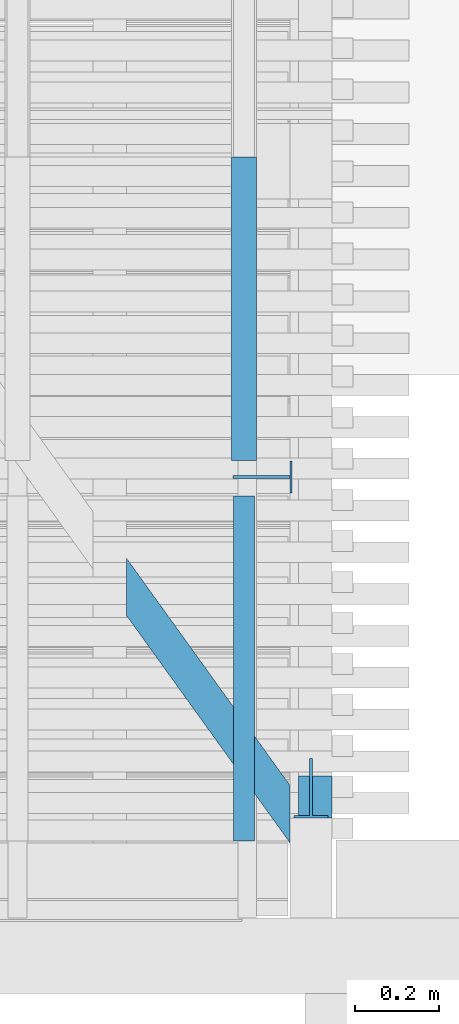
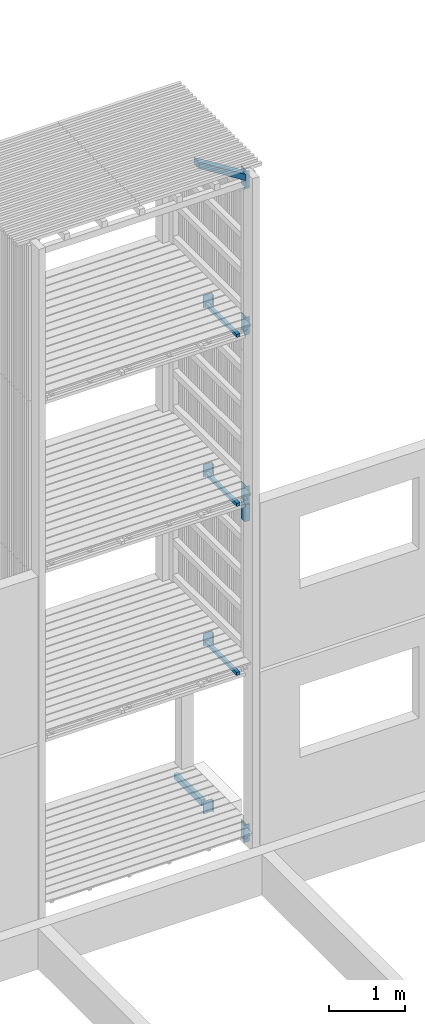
# One storey, part 166 of 182: 14 beams.
"""IFC2X3 building model written with IfcOpenShell, lengths in metres."""

from ifc_helpers import new_model, si_unit, frame, origin, place, context, project, spatial, faceted_brep, element, save


model = new_model("IFC2X3")

# Units and contexts
model_context = context("Model", 3, precision=1e-06, world=origin())
ifc_project = project(units=[si_unit("LENGTHUNIT", "METRE"), si_unit("PLANEANGLEUNIT", "RADIAN")], contexts=[model_context])

# Site, building, storey
site = spatial("IfcSite", under=ifc_project, CompositionType="ELEMENT")
building = spatial("IfcBuilding", under=site, CompositionType="ELEMENT")
storey = spatial("IfcBuildingStorey", under=building, Name="vs", CompositionType="ELEMENT", Elevation=-0.85)

# Beams
placement = place(None, origin())
beam_1_placement = place(placement, frame((16.488197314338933, 11.5250776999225, -0.243899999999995), z_axis=(-1.0, 0.0, 0.0), x_axis=(0.0, 0.0, 1.0)))
element("IfcBeam", 1, at=beam_1_placement, inside=storey, Name="Contre-usinage", context=model_context, shape_type="Brep", body=[
    faceted_brep([(0.2, 0.003999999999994, -0.065999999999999), (0.2, -0.004000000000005, -0.065999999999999), (0.175, -0.004000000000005, -0.065999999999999), (0.175, 0.003999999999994, -0.065999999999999), (0.0, 0.003999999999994, -0.065999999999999), (0.175, 0.003999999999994, -0.065999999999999), (0.175, 0.037999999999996, -0.065999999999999), (0.0, 0.037999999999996, -0.065999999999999), (0.0, -0.038000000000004, -0.065999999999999), (0.175, -0.038000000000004, -0.065999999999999), (0.175, -0.004000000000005, -0.065999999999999), (0.0, -0.004000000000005, -0.065999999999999), (0.0, -0.004000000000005, 0.071000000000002), (0.0, -0.004000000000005, -0.065999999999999), (0.175, -0.004000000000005, -0.065999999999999), (0.2, -0.004000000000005, -0.065999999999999), (0.2, -0.004000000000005, 0.071000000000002), (0.0, 0.003999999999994, 0.071000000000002), (0.0, -0.004000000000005, 0.071000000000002), (0.2, -0.004000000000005, 0.071000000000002), (0.2, 0.003999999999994, 0.071000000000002), (0.0, 0.037999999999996, -0.071000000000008), (0.175, 0.037999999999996, -0.071000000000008), (0.175, -0.038000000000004, -0.071000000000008), (0.0, -0.038000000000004, -0.071000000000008), (0.2, 0.003999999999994, 0.071000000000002), (0.2, -0.004000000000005, 0.071000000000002), (0.2, -0.004000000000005, -0.065999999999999), (0.2, 0.003999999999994, -0.065999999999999), (0.2, 0.003999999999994, -0.065999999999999), (0.175, 0.003999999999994, -0.065999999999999), (0.0, 0.003999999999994, -0.065999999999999), (0.0, 0.003999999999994, 0.071000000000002), (0.2, 0.003999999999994, 0.071000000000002), (0.175, -0.038000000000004, -0.071000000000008), (0.175, 0.037999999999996, -0.071000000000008), (0.175, 0.037999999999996, -0.065999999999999), (0.175, 0.003999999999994, -0.065999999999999), (0.175, -0.004000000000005, -0.065999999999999), (0.175, -0.038000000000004, -0.065999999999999), (0.0, 0.037999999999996, -0.071000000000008), (0.0, -0.038000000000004, -0.071000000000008), (0.0, -0.038000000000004, -0.065999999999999), (0.0, -0.004000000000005, -0.065999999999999), (0.0, -0.004000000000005, 0.071000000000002), (0.0, 0.003999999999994, 0.071000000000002), (0.0, 0.003999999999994, -0.065999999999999), (0.0, 0.037999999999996, -0.065999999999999), (0.0, 0.037999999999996, -0.071000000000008), (0.0, 0.037999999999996, -0.065999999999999), (0.175, 0.037999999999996, -0.065999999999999), (0.175, 0.037999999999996, -0.071000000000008), (0.0, -0.038000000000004, -0.065999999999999), (0.0, -0.038000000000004, -0.071000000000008), (0.175, -0.038000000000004, -0.071000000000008), (0.175, -0.038000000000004, -0.065999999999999)], [[[0, 1, 2, 3]], [[4, 5, 6, 7]], [[8, 9, 10, 11]], [[12, 13, 14, 15, 16]], [[17, 18, 19, 20]], [[21, 22, 23, 24]], [[25, 26, 27, 28]], [[29, 30, 31, 32, 33]], [[34, 35, 36, 37, 38, 39]], [[40, 41, 42, 43, 44, 45, 46, 47]], [[48, 49, 50, 51]], [[52, 53, 54, 55]]]),
])
beam_2_placement = place(placement, frame((16.488197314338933, 11.5250776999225, 7.839999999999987), z_axis=(-1.0, 0.0, 0.0), x_axis=(0.0, 0.0, 1.0)))
element("IfcBeam", 2, at=beam_2_placement, inside=storey, Name="Contre-usinage", context=model_context, shape_type="Brep", body=[
    faceted_brep([(0.200000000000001, 0.003999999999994, -0.065999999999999), (0.200000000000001, -0.004000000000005, -0.065999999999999), (0.175000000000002, -0.004000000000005, -0.065999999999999), (0.175000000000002, 0.003999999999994, -0.065999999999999), (2e-15, 0.003999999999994, -0.065999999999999), (0.175000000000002, 0.003999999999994, -0.065999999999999), (0.175000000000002, 0.037999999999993, -0.065999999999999), (2e-15, 0.037999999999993, -0.065999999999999), (2e-15, -0.038000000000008, -0.065999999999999), (0.175000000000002, -0.038000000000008, -0.065999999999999), (0.175000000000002, -0.004000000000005, -0.065999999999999), (2e-15, -0.004000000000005, -0.065999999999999), (2e-15, -0.004000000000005, 0.071000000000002), (2e-15, -0.004000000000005, -0.065999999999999), (0.175000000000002, -0.004000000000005, -0.065999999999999), (0.200000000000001, -0.004000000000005, -0.065999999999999), (0.200000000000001, -0.004000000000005, 0.071000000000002), (2e-15, 0.003999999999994, 0.071000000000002), (2e-15, -0.004000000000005, 0.071000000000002), (0.200000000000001, -0.004000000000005, 0.071000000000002), (0.200000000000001, 0.003999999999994, 0.071000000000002), (2e-15, 0.037999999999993, -0.071000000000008), (0.175000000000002, 0.037999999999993, -0.071000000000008), (0.175000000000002, -0.038000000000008, -0.071000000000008), (2e-15, -0.038000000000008, -0.071000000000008), (0.175000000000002, -0.038000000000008, -0.071000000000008), (0.175000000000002, 0.037999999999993, -0.071000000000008), (0.175000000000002, 0.037999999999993, -0.065999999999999), (0.175000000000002, 0.003999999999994, -0.065999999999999), (0.175000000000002, -0.004000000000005, -0.065999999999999), (0.175000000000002, -0.038000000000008, -0.065999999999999), (0.200000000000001, 0.003999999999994, -0.065999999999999), (0.175000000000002, 0.003999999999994, -0.065999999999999), (2e-15, 0.003999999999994, -0.065999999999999), (2e-15, 0.003999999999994, 0.071000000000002), (0.200000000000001, 0.003999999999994, 0.071000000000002), (0.200000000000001, 0.003999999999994, 0.071000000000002), (0.200000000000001, -0.004000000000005, 0.071000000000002), (0.200000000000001, -0.004000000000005, -0.065999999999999), (0.200000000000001, 0.003999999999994, -0.065999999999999), (2e-15, 0.037999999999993, -0.065999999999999), (0.175000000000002, 0.037999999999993, -0.065999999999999), (0.175000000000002, 0.037999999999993, -0.071000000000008), (2e-15, 0.037999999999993, -0.071000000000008), (2e-15, 0.037999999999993, -0.071000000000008), (2e-15, -0.038000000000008, -0.071000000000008), (2e-15, -0.038000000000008, -0.065999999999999), (2e-15, -0.004000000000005, -0.065999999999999), (2e-15, -0.004000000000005, 0.071000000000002), (2e-15, 0.003999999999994, 0.071000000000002), (2e-15, 0.003999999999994, -0.065999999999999), (2e-15, 0.037999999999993, -0.065999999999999), (2e-15, -0.038000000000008, -0.065999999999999), (2e-15, -0.038000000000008, -0.071000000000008), (0.175000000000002, -0.038000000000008, -0.071000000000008), (0.175000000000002, -0.038000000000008, -0.065999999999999)], [[[0, 1, 2, 3]], [[4, 5, 6, 7]], [[8, 9, 10, 11]], [[12, 13, 14, 15, 16]], [[17, 18, 19, 20]], [[21, 22, 23, 24]], [[25, 26, 27, 28, 29, 30]], [[31, 32, 33, 34, 35]], [[36, 37, 38, 39]], [[40, 41, 42, 43]], [[44, 45, 46, 47, 48, 49, 50, 51]], [[52, 53, 54, 55]]]),
])
beam_3_placement = place(placement, frame((16.56319731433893, 10.781077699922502, -0.119999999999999), z_axis=(0.0, 0.0, 1.0), x_axis=(1.0, 0.0, 0.0)))
element("IfcBeam", 3, at=beam_3_placement, inside=storey, Name="Contre-usinage", context=model_context, shape_type="Brep", body=[
    faceted_brep([(0.037000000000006, -0.065999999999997, -0.14), (0.037000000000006, 0.071, -0.14), (0.045000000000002, 0.071, -0.14), (0.045000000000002, -0.065999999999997, -0.14), (0.082000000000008, -0.066000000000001, -0.14), (0.082000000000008, -0.071, -0.14), (0.0, -0.071, -0.14), (0.0, -0.066000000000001, -0.14), (0.045000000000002, 0.071, -0.14), (0.037000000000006, 0.071, -0.14), (0.037000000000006, 0.071, 0.14), (0.045000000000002, 0.071, 0.14), (0.045000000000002, -0.066000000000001, 0.14), (0.045000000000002, -0.065999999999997, -0.14), (0.045000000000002, 0.071, -0.14), (0.045000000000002, 0.071, 0.14), (0.082000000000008, -0.066000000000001, -0.14), (0.045000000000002, -0.065999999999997, -0.14), (0.045000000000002, -0.066000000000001, 0.14), (0.082000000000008, -0.066000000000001, 0.14), (0.082000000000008, -0.071, -0.14), (0.082000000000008, -0.066000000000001, -0.14), (0.082000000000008, -0.066000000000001, 0.14), (0.082000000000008, -0.071, 0.14), (0.0, -0.071, -0.14), (0.082000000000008, -0.071, -0.14), (0.082000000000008, -0.071, 0.14), (0.0, -0.071, 0.14), (0.0, -0.066000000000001, -0.14), (0.0, -0.071, -0.14), (0.0, -0.071, 0.14), (0.0, -0.066000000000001, 0.14), (0.037000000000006, -0.065999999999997, -0.14), (0.0, -0.066000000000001, -0.14), (0.0, -0.066000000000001, 0.14), (0.037000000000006, -0.066000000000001, 0.14), (0.037000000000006, 0.071, 0.14), (0.037000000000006, 0.071, -0.14), (0.037000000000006, -0.065999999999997, -0.14), (0.037000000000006, -0.066000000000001, 0.14), (0.082000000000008, -0.066000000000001, 0.14), (0.045000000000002, -0.066000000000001, 0.14), (0.045000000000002, 0.071, 0.14), (0.037000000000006, 0.071, 0.14), (0.037000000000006, -0.066000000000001, 0.14), (0.0, -0.066000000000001, 0.14), (0.0, -0.071, 0.14), (0.082000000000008, -0.071, 0.14)], [[[0, 1, 2, 3, 4, 5, 6, 7]], [[8, 9, 10, 11]], [[12, 13, 14, 15]], [[16, 17, 18, 19]], [[20, 21, 22, 23]], [[24, 25, 26, 27]], [[28, 29, 30, 31]], [[32, 33, 34, 35]], [[36, 37, 38, 39]], [[40, 41, 42, 43, 44, 45, 46, 47]]]),
])
beam_4_placement = place(placement, frame((16.44419731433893, 10.655077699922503, 2.517999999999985), z_axis=(0.0, 0.0, 1.0), x_axis=(0.0, 1.0, 0.0)))
element("IfcBeam", 4, at=beam_4_placement, inside=storey, Name="Calage", context=model_context, shape_type="Brep", body=[
    faceted_brep([(-1e-15, -0.025000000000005, 0.025), (0.824999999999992, -0.025000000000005, 0.025), (0.824999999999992, 0.024999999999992, 0.025), (-1e-15, 0.024999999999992, 0.025), (-1e-15, 0.024999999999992, 0.025), (0.824999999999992, 0.024999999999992, 0.025), (0.824999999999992, 0.024999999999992, -0.025), (-1e-15, 0.024999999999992, -0.025), (0.824999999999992, 0.024999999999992, 0.025), (0.824999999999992, -0.025000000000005, 0.025), (0.824999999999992, -0.025000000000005, -0.025), (0.824999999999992, 0.024999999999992, -0.025), (-1e-15, -0.025000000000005, -0.025), (0.824999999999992, -0.025000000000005, -0.025), (0.824999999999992, -0.025000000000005, 0.025), (-1e-15, -0.025000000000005, 0.025), (-1e-15, 0.024999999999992, -0.025), (0.824999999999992, 0.024999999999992, -0.025), (0.824999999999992, -0.025000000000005, -0.025), (-1e-15, -0.025000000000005, -0.025), (-1e-15, 0.024999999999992, 0.025), (-1e-15, 0.024999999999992, -0.025), (-1e-15, -0.025000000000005, -0.025), (-1e-15, -0.025000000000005, 0.025)], [[[0, 1, 2, 3]], [[4, 5, 6, 7]], [[8, 9, 10, 11]], [[12, 13, 14, 15]], [[16, 17, 18, 19]], [[20, 21, 22, 23]]]),
])
beam_5_placement = place(placement, frame((16.44419731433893, 10.655077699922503, 7.917999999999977), z_axis=(0.0, 0.0, 1.0), x_axis=(1.8e-14, 1.0, 0.0)))
element("IfcBeam", 5, at=beam_5_placement, inside=storey, Name="Calage", context=model_context, shape_type="Brep", body=[
    faceted_brep([(0.0, -0.025000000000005, 0.024999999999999), (0.824999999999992, -0.02499999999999, 0.024999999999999), (0.824999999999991, 0.025000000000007, 0.024999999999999), (-1e-15, 0.024999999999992, 0.024999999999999), (-1e-15, 0.024999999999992, 0.024999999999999), (0.824999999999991, 0.025000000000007, 0.024999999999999), (0.824999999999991, 0.025000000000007, -0.025), (-1e-15, 0.024999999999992, -0.025), (0.824999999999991, 0.025000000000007, 0.024999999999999), (0.824999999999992, -0.02499999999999, 0.024999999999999), (0.824999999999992, -0.02499999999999, -0.025), (0.824999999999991, 0.025000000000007, -0.025), (0.0, -0.025000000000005, -0.025), (0.824999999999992, -0.02499999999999, -0.025), (0.824999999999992, -0.02499999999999, 0.024999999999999), (0.0, -0.025000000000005, 0.024999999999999), (-1e-15, 0.024999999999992, -0.025), (0.824999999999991, 0.025000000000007, -0.025), (0.824999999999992, -0.02499999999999, -0.025), (0.0, -0.025000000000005, -0.025), (-1e-15, 0.024999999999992, 0.024999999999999), (-1e-15, 0.024999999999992, -0.025), (0.0, -0.025000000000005, -0.025), (0.0, -0.025000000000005, 0.024999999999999)], [[[0, 1, 2, 3]], [[4, 5, 6, 7]], [[8, 9, 10, 11]], [[12, 13, 14, 15]], [[16, 17, 18, 19]], [[20, 21, 22, 23]]]),
])
beam_6_placement = place(placement, frame((16.56319731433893, 10.781077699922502, 5.279999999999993), z_axis=(0.0, 0.0, 1.0), x_axis=(1.0, 0.0, 0.0)))
element("IfcBeam", 6, at=beam_6_placement, inside=storey, Name="Contre-usinage", context=model_context, shape_type="Brep", body=[
    faceted_brep([(0.037000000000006, -0.065999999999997, -0.140000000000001), (0.037000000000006, 0.071, -0.140000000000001), (0.045000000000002, 0.071, -0.140000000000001), (0.045000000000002, -0.065999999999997, -0.140000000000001), (0.082000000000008, -0.066000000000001, -0.140000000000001), (0.082000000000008, -0.071, -0.140000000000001), (0.0, -0.071, -0.140000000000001), (0.0, -0.066000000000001, -0.140000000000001), (0.045000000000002, 0.071, -0.140000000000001), (0.037000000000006, 0.071, -0.140000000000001), (0.037000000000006, 0.071, 0.140000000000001), (0.045000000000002, 0.071, 0.140000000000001), (0.045000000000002, -0.066000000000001, 0.140000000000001), (0.045000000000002, -0.065999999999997, -0.140000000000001), (0.045000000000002, 0.071, -0.140000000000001), (0.045000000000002, 0.071, 0.140000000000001), (0.082000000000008, -0.066000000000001, -0.140000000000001), (0.045000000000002, -0.065999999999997, -0.140000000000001), (0.045000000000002, -0.066000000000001, 0.140000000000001), (0.082000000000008, -0.066000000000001, 0.140000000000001), (0.082000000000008, -0.071, -0.140000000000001), (0.082000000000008, -0.066000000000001, -0.140000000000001), (0.082000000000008, -0.066000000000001, 0.140000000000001), (0.082000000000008, -0.071, 0.140000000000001), (0.0, -0.071, -0.140000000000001), (0.082000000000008, -0.071, -0.140000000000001), (0.082000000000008, -0.071, 0.140000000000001), (0.0, -0.071, 0.140000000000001), (0.0, -0.066000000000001, -0.140000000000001), (0.0, -0.071, -0.140000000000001), (0.0, -0.071, 0.140000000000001), (0.0, -0.066000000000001, 0.140000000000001), (0.037000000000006, -0.065999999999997, -0.140000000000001), (0.0, -0.066000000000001, -0.140000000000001), (0.0, -0.066000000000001, 0.140000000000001), (0.037000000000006, -0.066000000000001, 0.140000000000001), (0.037000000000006, 0.071, 0.140000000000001), (0.037000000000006, 0.071, -0.140000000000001), (0.037000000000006, -0.065999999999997, -0.140000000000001), (0.037000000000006, -0.066000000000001, 0.140000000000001), (0.082000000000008, -0.066000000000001, 0.140000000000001), (0.045000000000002, -0.066000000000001, 0.140000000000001), (0.045000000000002, 0.071, 0.140000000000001), (0.037000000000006, 0.071, 0.140000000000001), (0.037000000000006, -0.066000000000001, 0.140000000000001), (0.0, -0.066000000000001, 0.140000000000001), (0.0, -0.071, 0.140000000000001), (0.082000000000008, -0.071, 0.140000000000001)], [[[0, 1, 2, 3, 4, 5, 6, 7]], [[8, 9, 10, 11]], [[12, 13, 14, 15]], [[16, 17, 18, 19]], [[20, 21, 22, 23]], [[24, 25, 26, 27]], [[28, 29, 30, 31]], [[32, 33, 34, 35]], [[36, 37, 38, 39]], [[40, 41, 42, 43, 44, 45, 46, 47]]]),
])
beam_7_placement = place(placement, frame((16.44419731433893, 11.565077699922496, -0.091949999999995), z_axis=(0.0, 0.0, 1.0), x_axis=(0.0, 1.0, 0.0)))
element("IfcBeam", 7, at=beam_7_placement, inside=storey, Name="Solive", context=model_context, shape_type="Brep", body=[
    faceted_brep([(0.0, -0.03, -0.04805), (0.0, 0.030000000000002, -0.04805), (0.725000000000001, 0.030000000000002, -0.04805), (0.725000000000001, -0.03, -0.04805), (0.725000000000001, -0.03, 0.033549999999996), (0.0, -0.03, 0.048049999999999), (0.0, -0.03, -0.04805), (0.725000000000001, -0.03, -0.04805), (0.0, -0.03, 0.048049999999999), (0.725000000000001, -0.03, 0.033549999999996), (0.725000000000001, 0.030000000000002, 0.033549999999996), (0.0, 0.030000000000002, 0.048049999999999), (0.0, -0.03, 0.048049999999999), (0.0, 0.030000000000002, 0.048049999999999), (0.0, 0.030000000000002, -0.04805), (0.0, -0.03, -0.04805), (0.0, 0.030000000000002, -0.04805), (0.0, 0.030000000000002, 0.048049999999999), (0.725000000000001, 0.030000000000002, 0.033549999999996), (0.725000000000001, 0.030000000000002, -0.04805), (0.725000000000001, -0.03, 0.033549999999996), (0.725000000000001, -0.03, -0.04805), (0.725000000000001, 0.030000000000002, -0.04805), (0.725000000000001, 0.030000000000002, 0.033549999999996)], [[[0, 1, 2, 3]], [[4, 5, 6, 7]], [[8, 9, 10, 11]], [[12, 13, 14, 15]], [[16, 17, 18, 19]], [[20, 21, 22, 23]]]),
])
beam_8_placement = place(placement, frame((16.56319731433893, 10.781077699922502, 7.979999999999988), z_axis=(0.0, 0.0, 1.0), x_axis=(1.0, 0.0, 0.0)))
element("IfcBeam", 8, at=beam_8_placement, inside=storey, Name="Contre-usinage", context=model_context, shape_type="Brep", body=[
    faceted_brep([(0.037000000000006, -0.065999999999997, -0.14), (0.037000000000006, 0.071, -0.14), (0.045000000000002, 0.071, -0.14), (0.045000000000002, -0.065999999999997, -0.14), (0.082000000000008, -0.066000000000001, -0.14), (0.082000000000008, -0.071, -0.14), (0.0, -0.071, -0.14), (0.0, -0.066000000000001, -0.14), (0.045000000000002, 0.071, -0.14), (0.037000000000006, 0.071, -0.14), (0.037000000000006, 0.071, 0.140000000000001), (0.045000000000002, 0.071, 0.140000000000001), (0.045000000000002, -0.066000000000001, 0.140000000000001), (0.045000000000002, -0.065999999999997, -0.14), (0.045000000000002, 0.071, -0.14), (0.045000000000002, 0.071, 0.140000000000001), (0.082000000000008, -0.066000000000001, -0.14), (0.045000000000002, -0.065999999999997, -0.14), (0.045000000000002, -0.066000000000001, 0.140000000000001), (0.082000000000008, -0.066000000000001, 0.140000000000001), (0.082000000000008, -0.071, -0.14), (0.082000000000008, -0.066000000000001, -0.14), (0.082000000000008, -0.066000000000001, 0.140000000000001), (0.082000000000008, -0.071, 0.140000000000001), (0.0, -0.071, -0.14), (0.082000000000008, -0.071, -0.14), (0.082000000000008, -0.071, 0.140000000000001), (0.0, -0.071, 0.140000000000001), (0.0, -0.066000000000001, -0.14), (0.0, -0.071, -0.14), (0.0, -0.071, 0.140000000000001), (0.0, -0.066000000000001, 0.140000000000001), (0.037000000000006, -0.065999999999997, -0.14), (0.0, -0.066000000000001, -0.14), (0.0, -0.066000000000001, 0.140000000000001), (0.037000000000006, -0.066000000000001, 0.140000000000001), (0.037000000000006, 0.071, 0.140000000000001), (0.037000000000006, 0.071, -0.14), (0.037000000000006, -0.065999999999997, -0.14), (0.037000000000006, -0.066000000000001, 0.140000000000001), (0.082000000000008, -0.066000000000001, 0.140000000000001), (0.045000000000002, -0.066000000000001, 0.140000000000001), (0.045000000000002, 0.071, 0.140000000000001), (0.037000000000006, 0.071, 0.140000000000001), (0.037000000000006, -0.066000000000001, 0.140000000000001), (0.0, -0.066000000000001, 0.140000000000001), (0.0, -0.071, 0.140000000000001), (0.082000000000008, -0.071, 0.140000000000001)], [[[0, 1, 2, 3, 4, 5, 6, 7]], [[8, 9, 10, 11]], [[12, 13, 14, 15]], [[16, 17, 18, 19]], [[20, 21, 22, 23]], [[24, 25, 26, 27]], [[28, 29, 30, 31]], [[32, 33, 34, 35]], [[36, 37, 38, 39]], [[40, 41, 42, 43, 44, 45, 46, 47]]]),
])
beam_9_placement = place(placement, frame((16.488197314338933, 11.5250776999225, 5.139999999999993), z_axis=(-1.0, 0.0, 0.0), x_axis=(0.0, 0.0, 1.0)))
element("IfcBeam", 9, at=beam_9_placement, inside=storey, Name="Contre-usinage", context=model_context, shape_type="Brep", body=[
    faceted_brep([(0.2, 0.003999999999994, -0.065999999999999), (0.2, -0.004000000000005, -0.065999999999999), (0.174999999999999, -0.004000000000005, -0.065999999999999), (0.174999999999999, 0.003999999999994, -0.065999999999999), (0.0, 0.003999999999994, -0.065999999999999), (0.174999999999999, 0.003999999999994, -0.065999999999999), (0.174999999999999, 0.037999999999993, -0.065999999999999), (0.0, 0.037999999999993, -0.065999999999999), (0.0, -0.038000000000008, -0.065999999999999), (0.174999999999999, -0.038000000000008, -0.065999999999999), (0.174999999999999, -0.004000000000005, -0.065999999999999), (0.0, -0.004000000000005, -0.065999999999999), (0.0, -0.004000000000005, 0.071000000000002), (0.0, -0.004000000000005, -0.065999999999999), (0.174999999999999, -0.004000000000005, -0.065999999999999), (0.2, -0.004000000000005, -0.065999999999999), (0.2, -0.004000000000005, 0.071000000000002), (0.0, 0.003999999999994, 0.071000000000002), (0.0, -0.004000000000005, 0.071000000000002), (0.2, -0.004000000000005, 0.071000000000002), (0.2, 0.003999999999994, 0.071000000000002), (0.0, 0.037999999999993, -0.070999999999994), (0.174999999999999, 0.037999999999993, -0.070999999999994), (0.174999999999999, -0.038000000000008, -0.070999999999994), (0.0, -0.038000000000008, -0.070999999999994), (0.174999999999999, -0.038000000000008, -0.070999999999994), (0.174999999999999, 0.037999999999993, -0.070999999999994), (0.174999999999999, 0.037999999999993, -0.065999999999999), (0.174999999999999, 0.003999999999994, -0.065999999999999), (0.174999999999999, -0.004000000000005, -0.065999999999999), (0.174999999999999, -0.038000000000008, -0.065999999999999), (0.2, 0.003999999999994, -0.065999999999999), (0.174999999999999, 0.003999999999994, -0.065999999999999), (0.0, 0.003999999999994, -0.065999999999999), (0.0, 0.003999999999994, 0.071000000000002), (0.2, 0.003999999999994, 0.071000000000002), (0.2, 0.003999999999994, 0.071000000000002), (0.2, -0.004000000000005, 0.071000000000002), (0.2, -0.004000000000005, -0.065999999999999), (0.2, 0.003999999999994, -0.065999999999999), (0.0, 0.037999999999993, -0.065999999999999), (0.174999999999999, 0.037999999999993, -0.065999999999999), (0.174999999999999, 0.037999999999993, -0.070999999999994), (0.0, 0.037999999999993, -0.070999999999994), (0.0, 0.037999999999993, -0.070999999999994), (0.0, -0.038000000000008, -0.070999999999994), (0.0, -0.038000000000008, -0.065999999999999), (0.0, -0.004000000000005, -0.065999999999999), (0.0, -0.004000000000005, 0.071000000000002), (0.0, 0.003999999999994, 0.071000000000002), (0.0, 0.003999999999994, -0.065999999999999), (0.0, 0.037999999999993, -0.065999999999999), (0.0, -0.038000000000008, -0.065999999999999), (0.0, -0.038000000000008, -0.070999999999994), (0.174999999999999, -0.038000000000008, -0.070999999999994), (0.174999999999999, -0.038000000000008, -0.065999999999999)], [[[0, 1, 2, 3]], [[4, 5, 6, 7]], [[8, 9, 10, 11]], [[12, 13, 14, 15, 16]], [[17, 18, 19, 20]], [[21, 22, 23, 24]], [[25, 26, 27, 28, 29, 30]], [[31, 32, 33, 34, 35]], [[36, 37, 38, 39]], [[40, 41, 42, 43]], [[44, 45, 46, 47, 48, 49, 50, 51]], [[52, 53, 54, 55]]]),
])
beam_10_placement = place(placement, frame((16.56319731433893, 10.781077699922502, 10.314999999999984), z_axis=(0.0, 0.0, 1.0), x_axis=(1.0, 0.0, 0.0)))
element("IfcBeam", 10, at=beam_10_placement, inside=storey, Name="Contre-usinage", context=model_context, shape_type="Brep", body=[
    faceted_brep([(0.037000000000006, -0.065999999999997, -0.140000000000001), (0.037000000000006, 0.071, -0.140000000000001), (0.045000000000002, 0.071, -0.140000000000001), (0.045000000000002, -0.065999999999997, -0.140000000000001), (0.082000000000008, -0.066000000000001, -0.140000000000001), (0.082000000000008, -0.071, -0.140000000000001), (0.0, -0.071, -0.140000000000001), (0.0, -0.066000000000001, -0.140000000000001), (0.045000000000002, 0.071, -0.140000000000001), (0.037000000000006, 0.071, -0.140000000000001), (0.037000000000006, 0.071, 0.140000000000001), (0.045000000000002, 0.071, 0.140000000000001), (0.045000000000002, -0.066000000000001, 0.140000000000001), (0.045000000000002, -0.065999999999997, -0.140000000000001), (0.045000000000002, 0.071, -0.140000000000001), (0.045000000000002, 0.071, 0.140000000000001), (0.082000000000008, -0.066000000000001, -0.140000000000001), (0.045000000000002, -0.065999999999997, -0.140000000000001), (0.045000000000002, -0.066000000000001, 0.140000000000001), (0.082000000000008, -0.066000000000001, 0.140000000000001), (0.082000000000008, -0.071, -0.140000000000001), (0.082000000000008, -0.066000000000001, -0.140000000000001), (0.082000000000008, -0.066000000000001, 0.140000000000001), (0.082000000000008, -0.071, 0.140000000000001), (0.0, -0.071, -0.140000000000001), (0.082000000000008, -0.071, -0.140000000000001), (0.082000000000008, -0.071, 0.140000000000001), (0.0, -0.071, 0.140000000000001), (0.0, -0.066000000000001, -0.140000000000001), (0.0, -0.071, -0.140000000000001), (0.0, -0.071, 0.140000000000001), (0.0, -0.066000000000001, 0.140000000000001), (0.037000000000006, -0.065999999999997, -0.140000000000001), (0.0, -0.066000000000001, -0.140000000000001), (0.0, -0.066000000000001, 0.140000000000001), (0.037000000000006, -0.066000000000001, 0.140000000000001), (0.037000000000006, 0.071, 0.140000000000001), (0.037000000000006, 0.071, -0.140000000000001), (0.037000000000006, -0.065999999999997, -0.140000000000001), (0.037000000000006, -0.066000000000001, 0.140000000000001), (0.082000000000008, -0.066000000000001, 0.140000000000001), (0.045000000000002, -0.066000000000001, 0.140000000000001), (0.045000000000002, 0.071, 0.140000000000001), (0.037000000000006, 0.071, 0.140000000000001), (0.037000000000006, -0.066000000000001, 0.140000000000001), (0.0, -0.066000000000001, 0.140000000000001), (0.0, -0.071, 0.140000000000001), (0.082000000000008, -0.071, 0.140000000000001)], [[[0, 1, 2, 3, 4, 5, 6, 7]], [[8, 9, 10, 11]], [[12, 13, 14, 15]], [[16, 17, 18, 19]], [[20, 21, 22, 23]], [[24, 25, 26, 27]], [[28, 29, 30, 31]], [[32, 33, 34, 35]], [[36, 37, 38, 39]], [[40, 41, 42, 43, 44, 45, 46, 47]]]),
])
beam_11_placement = place(placement, frame((16.614197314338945, 10.760077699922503, 4.85796194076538), z_axis=(0.0, 1.0, 0.0), x_axis=(0.0, 0.0, 1.0)))
element("IfcBeam", 11, at=beam_11_placement, inside=storey, Name="Support bardage", context=model_context, shape_type="Brep", body=[
    faceted_brep([(0.267038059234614, 0.039999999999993, -0.050000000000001), (0.267038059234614, 0.039999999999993, 0.05), (0.267038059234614, -0.04000000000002, 0.05), (0.267038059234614, -0.04000000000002, -0.050000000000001), (0.267038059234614, 0.039999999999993, -0.050000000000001), (0.267038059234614, -0.04000000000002, -0.050000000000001), (0.0, -0.04000000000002, -0.050000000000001), (0.0, 0.039999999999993, -0.050000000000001), (0.267038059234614, 0.039999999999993, 0.05), (0.267038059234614, 0.039999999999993, -0.050000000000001), (0.0, 0.039999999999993, -0.050000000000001), (0.0, 0.039999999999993, 0.05), (0.0, -0.04000000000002, -0.050000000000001), (0.267038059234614, -0.04000000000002, -0.050000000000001), (0.267038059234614, -0.04000000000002, 0.05), (0.0, -0.04000000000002, 0.05), (0.0, -0.04000000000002, 0.05), (0.267038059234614, -0.04000000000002, 0.05), (0.267038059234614, 0.039999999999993, 0.05), (0.0, 0.039999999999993, 0.05), (0.0, -0.04000000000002, -0.050000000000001), (0.0, -0.04000000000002, 0.05), (0.0, 0.039999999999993, 0.05), (0.0, 0.039999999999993, -0.050000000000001)], [[[0, 1, 2, 3]], [[4, 5, 6, 7]], [[8, 9, 10, 11]], [[12, 13, 14, 15]], [[16, 17, 18, 19]], [[20, 21, 22, 23]]]),
])
beam_12_placement = place(placement, frame((16.488197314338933, 11.5250776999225, 2.439999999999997), z_axis=(-1.0, 0.0, 0.0), x_axis=(0.0, 0.0, 1.0)))
element("IfcBeam", 12, at=beam_12_placement, inside=storey, Name="Contre-usinage", context=model_context, shape_type="Brep", body=[
    faceted_brep([(0.2, 0.003999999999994, -0.065999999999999), (0.2, -0.004000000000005, -0.065999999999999), (0.175, -0.004000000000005, -0.065999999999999), (0.175, 0.003999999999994, -0.065999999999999), (0.0, 0.003999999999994, -0.065999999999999), (0.175, 0.003999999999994, -0.065999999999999), (0.175, 0.037999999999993, -0.065999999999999), (0.0, 0.037999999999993, -0.065999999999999), (0.0, -0.038000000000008, -0.065999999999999), (0.175, -0.038000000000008, -0.065999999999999), (0.175, -0.004000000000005, -0.065999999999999), (0.0, -0.004000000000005, -0.065999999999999), (0.0, -0.004000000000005, 0.071000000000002), (0.0, -0.004000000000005, -0.065999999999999), (0.175, -0.004000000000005, -0.065999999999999), (0.2, -0.004000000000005, -0.065999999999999), (0.2, -0.004000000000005, 0.071000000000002), (0.0, 0.003999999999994, 0.071000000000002), (0.0, -0.004000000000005, 0.071000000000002), (0.2, -0.004000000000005, 0.071000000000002), (0.2, 0.003999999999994, 0.071000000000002), (0.0, 0.037999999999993, -0.070999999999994), (0.175, 0.037999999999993, -0.070999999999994), (0.175, -0.038000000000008, -0.070999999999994), (0.0, -0.038000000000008, -0.070999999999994), (0.175, -0.038000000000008, -0.070999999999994), (0.175, 0.037999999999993, -0.070999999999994), (0.175, 0.037999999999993, -0.065999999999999), (0.175, 0.003999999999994, -0.065999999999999), (0.175, -0.004000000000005, -0.065999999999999), (0.175, -0.038000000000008, -0.065999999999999), (0.2, 0.003999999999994, -0.065999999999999), (0.175, 0.003999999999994, -0.065999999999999), (0.0, 0.003999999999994, -0.065999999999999), (0.0, 0.003999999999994, 0.071000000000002), (0.2, 0.003999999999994, 0.071000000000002), (0.2, 0.003999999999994, 0.071000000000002), (0.2, -0.004000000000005, 0.071000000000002), (0.2, -0.004000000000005, -0.065999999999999), (0.2, 0.003999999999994, -0.065999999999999), (0.0, 0.037999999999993, -0.065999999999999), (0.175, 0.037999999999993, -0.065999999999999), (0.175, 0.037999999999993, -0.070999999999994), (0.0, 0.037999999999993, -0.070999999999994), (0.0, 0.037999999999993, -0.070999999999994), (0.0, -0.038000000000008, -0.070999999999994), (0.0, -0.038000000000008, -0.065999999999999), (0.0, -0.004000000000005, -0.065999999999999), (0.0, -0.004000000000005, 0.071000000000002), (0.0, 0.003999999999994, 0.071000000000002), (0.0, 0.003999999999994, -0.065999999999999), (0.0, 0.037999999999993, -0.065999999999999), (0.0, -0.038000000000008, -0.065999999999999), (0.0, -0.038000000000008, -0.070999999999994), (0.175, -0.038000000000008, -0.070999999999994), (0.175, -0.038000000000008, -0.065999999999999)], [[[0, 1, 2, 3]], [[4, 5, 6, 7]], [[8, 9, 10, 11]], [[12, 13, 14, 15, 16]], [[17, 18, 19, 20]], [[21, 22, 23, 24]], [[25, 26, 27, 28, 29, 30]], [[31, 32, 33, 34, 35]], [[36, 37, 38, 39]], [[40, 41, 42, 43]], [[44, 45, 46, 47, 48, 49, 50, 51]], [[52, 53, 54, 55]]]),
])
beam_13_placement = place(placement, frame((16.44419731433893, 10.655077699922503, 5.217999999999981), z_axis=(0.0, 0.0, 1.0), x_axis=(0.0, 1.0, 0.0)))
element("IfcBeam", 13, at=beam_13_placement, inside=storey, Name="Calage", context=model_context, shape_type="Brep", body=[
    faceted_brep([(-1e-15, -0.025000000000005, 0.024999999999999), (0.824999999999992, -0.025000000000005, 0.024999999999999), (0.824999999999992, 0.024999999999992, 0.024999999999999), (-1e-15, 0.024999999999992, 0.024999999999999), (-1e-15, 0.024999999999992, 0.024999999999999), (0.824999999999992, 0.024999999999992, 0.024999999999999), (0.824999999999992, 0.024999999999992, -0.025), (-1e-15, 0.024999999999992, -0.025), (0.824999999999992, 0.024999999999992, 0.024999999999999), (0.824999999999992, -0.025000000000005, 0.024999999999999), (0.824999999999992, -0.025000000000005, -0.025), (0.824999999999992, 0.024999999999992, -0.025), (-1e-15, -0.025000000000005, -0.025), (0.824999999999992, -0.025000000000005, -0.025), (0.824999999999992, -0.025000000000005, 0.024999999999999), (-1e-15, -0.025000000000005, 0.024999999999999), (-1e-15, 0.024999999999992, -0.025), (0.824999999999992, 0.024999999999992, -0.025), (0.824999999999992, -0.025000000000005, -0.025), (-1e-15, -0.025000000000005, -0.025), (-1e-15, 0.024999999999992, 0.024999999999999), (-1e-15, 0.024999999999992, -0.025), (-1e-15, -0.025000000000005, -0.025), (-1e-15, -0.025000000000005, 0.024999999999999)], [[[0, 1, 2, 3]], [[4, 5, 6, 7]], [[8, 9, 10, 11]], [[12, 13, 14, 15]], [[16, 17, 18, 19]], [[20, 21, 22, 23]]]),
])
beam_14_placement = place(placement, frame((16.58666885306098, 10.67343576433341, 10.404999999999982), z_axis=(0.0, 0.0, 1.0), x_axis=(-0.58395161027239, 0.811788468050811, 0.0)))
element("IfcBeam", 14, at=beam_14_placement, inside=storey, Name="Support bardage", context=model_context, shape_type="Brep", body=[
    faceted_brep([(2e-15, 0.040000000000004, -0.050000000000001), (0.111213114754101, -0.039999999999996, -0.049999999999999), (0.111213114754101, -0.039999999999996, 0.050000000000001), (2e-15, 0.040000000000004, 0.050000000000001), (0.111213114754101, -0.039999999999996, -0.049999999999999), (2e-15, 0.040000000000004, -0.050000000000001), (0.670717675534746, 0.04, -0.050000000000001), (0.781930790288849, -0.040000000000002, -0.050000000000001), (0.111213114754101, -0.039999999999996, 0.050000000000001), (0.111213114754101, -0.039999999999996, -0.049999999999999), (0.781930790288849, -0.040000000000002, -0.050000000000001), (0.781930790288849, -0.040000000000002, 0.050000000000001), (2e-15, 0.040000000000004, 0.050000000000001), (0.111213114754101, -0.039999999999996, 0.050000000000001), (0.781930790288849, -0.040000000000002, 0.050000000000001), (0.670717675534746, 0.04, 0.050000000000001), (0.670717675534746, 0.04, -0.050000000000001), (2e-15, 0.040000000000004, -0.050000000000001), (2e-15, 0.040000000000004, 0.050000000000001), (0.670717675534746, 0.04, 0.050000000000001), (0.670717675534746, 0.04, 0.050000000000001), (0.781930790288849, -0.040000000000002, 0.050000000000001), (0.781930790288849, -0.040000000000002, -0.050000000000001), (0.670717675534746, 0.04, -0.050000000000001)], [[[0, 1, 2, 3]], [[4, 5, 6, 7]], [[8, 9, 10, 11]], [[12, 13, 14, 15]], [[16, 17, 18, 19]], [[20, 21, 22, 23]]]),
])

save(model, "model.ifc")
